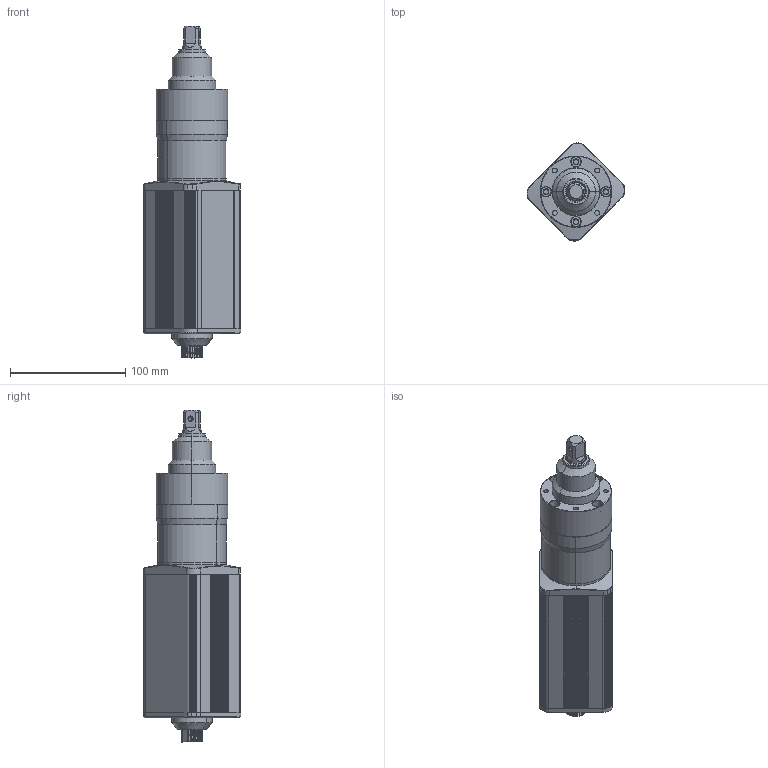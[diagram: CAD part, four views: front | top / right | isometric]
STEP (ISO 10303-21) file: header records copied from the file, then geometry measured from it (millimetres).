
FILE_DESCRIPTION (( 'STEP AP203' ), '1' );
FILE_NAME ('ZEDA-DE-MA12.7-2000 DE系列-低压高速智能电批.STEP', '2026-08-11T11:13:10', ( 'Windows User' ), ( 'P R C' ), 'SwSTEP 2.0', 'SolidWorks 2025', '' );
FILE_SCHEMA (( 'CONFIG_CONTROL_DESIGN' ));
Length unit declared in the file: millimetre
Products named in the file (1): ZEDA-DE-MA12.7-2000 DE系列-低压高速智能电批
Bounding box: 85.01 x 85.02 x 288.35 mm (x, y, z)
Surface area: 82047.7 mm2 (no closed solid volume)
Topology: 0 solids, 19 shells, 486 faces, 1454 edges, 985 vertices
Faces by surface type: cylinder 292, plane 85, cone 49, bspline 42, torus 18
Entity records: 31960 total; most frequent: CARTESIAN_POINT 19182, DIRECTION 2775, ORIENTED_EDGE 2470, EDGE_CURVE 1454, AXIS2_PLACEMENT_3D 1107, VERTEX_POINT 985, CIRCLE 662, VECTOR 561
